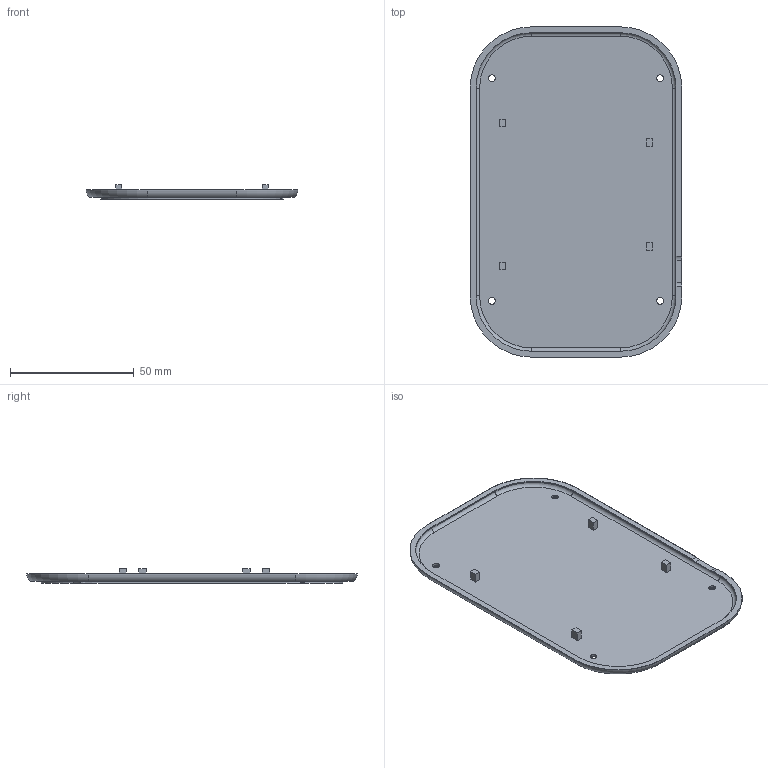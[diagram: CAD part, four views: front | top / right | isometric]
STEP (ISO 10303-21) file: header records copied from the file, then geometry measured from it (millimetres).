
FILE_DESCRIPTION(('Open CASCADE Model'),'2;1');
FILE_NAME('Open CASCADE Shape Model','2026-09-04T14:04:53',('Author'),( 'Open CASCADE'),'Open CASCADE STEP processor 7.7','Open CASCADE 7.7' ,'Unknown');
FILE_SCHEMA(('AUTOMOTIVE_DESIGN { 1 0 10303 214 1 1 1 1 }'));
Length unit declared in the file: millimetre
Products named in the file (1): Open CASCADE STEP translator 7.7 3
Bounding box: 85.6 x 133.6 x 5.79 mm (x, y, z)
Volume: 21374.5 mm3; surface area: 23561.8 mm2
Topology: 1 solids, 1 shells, 78 faces, 205 edges, 130 vertices
Faces by surface type: plane 38, cylinder 28, torus 8, cone 4
Full cylindrical faces by diameter (mm): 2.8 x4
Entity records: 5225 total; most frequent: CARTESIAN_POINT 1276, DIRECTION 693, ORIENTED_EDGE 410, PCURVE 410, DEFINITIONAL_REPRESENTATION 410, LINE 350, VECTOR 350, EDGE_CURVE 205
